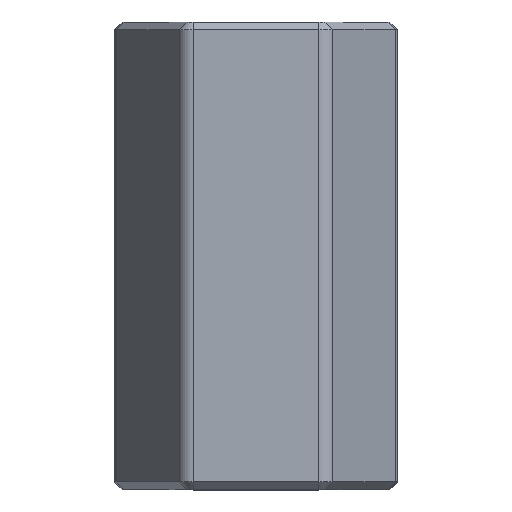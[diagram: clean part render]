
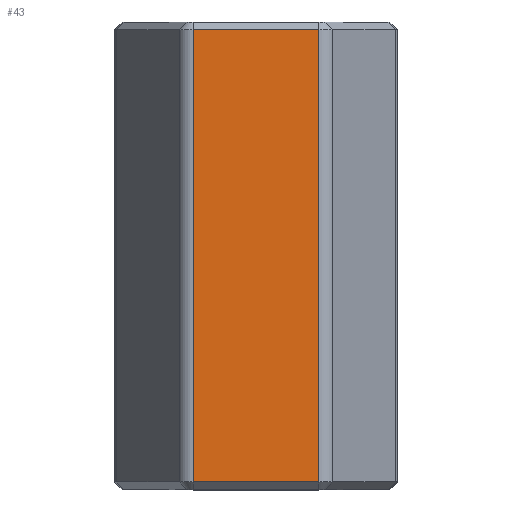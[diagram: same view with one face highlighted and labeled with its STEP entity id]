
A CAD part, top view. The second image highlights one B-rep face of the part: STEP entity #43.
In plain terms, the highlighted planar face has unit normal (0, 0, 1).
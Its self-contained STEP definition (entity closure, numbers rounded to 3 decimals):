
#43=ADVANCED_FACE('',(#123),#122,.T.);
#122=PLANE('',#638);
#123=FACE_OUTER_BOUND('',#639,.T.);
#635=CARTESIAN_POINT('',(-9.699,-4.8,16.));
#636=DIRECTION('',(0.,0.,1.));
#637=DIRECTION('',(1.,0.,0.));
#638=AXIS2_PLACEMENT_3D('',#635,#636,#637);
#639=EDGE_LOOP('',(#940,#941,#942,#943));
#940=ORIENTED_EDGE('',*,*,#1163,.T.);
#941=ORIENTED_EDGE('',*,*,#1164,.T.);
#942=ORIENTED_EDGE('',*,*,#1165,.T.);
#943=ORIENTED_EDGE('',*,*,#1166,.T.);
#1163=EDGE_CURVE('',#1340,#1341,#1342,.T.);
#1164=EDGE_CURVE('',#1341,#1348,#1349,.T.);
#1165=EDGE_CURVE('',#1348,#1355,#1356,.T.);
#1166=EDGE_CURVE('',#1355,#1340,#1362,.T.);
#1340=VERTEX_POINT('',#2049);
#1341=VERTEX_POINT('',#2050);
#1342=LINE('',#2051,#2052);
#1348=VERTEX_POINT('',#2054);
#1349=LINE('',#2055,#2056);
#1355=VERTEX_POINT('',#2058);
#1356=LINE('',#2059,#2060);
#1362=LINE('',#2062,#2063);
#2049=CARTESIAN_POINT('',(-8.083,59.,16.));
#2050=CARTESIAN_POINT('',(-8.083,1.,16.));
#2051=CARTESIAN_POINT('',(-8.083,59.,16.));
#2052=VECTOR('',#2053,58.);
#2053=DIRECTION('',(0.,-1.,0.));
#2054=CARTESIAN_POINT('',(8.083,1.,16.));
#2055=CARTESIAN_POINT('',(-8.083,1.,16.));
#2056=VECTOR('',#2057,16.166);
#2057=DIRECTION('',(1.,0.,0.));
#2058=CARTESIAN_POINT('',(8.083,59.,16.));
#2059=CARTESIAN_POINT('',(8.083,1.,16.));
#2060=VECTOR('',#2061,58.);
#2061=DIRECTION('',(0.,1.,0.));
#2062=CARTESIAN_POINT('',(8.083,59.,16.));
#2063=VECTOR('',#2064,16.166);
#2064=DIRECTION('',(-1.,0.,0.));
